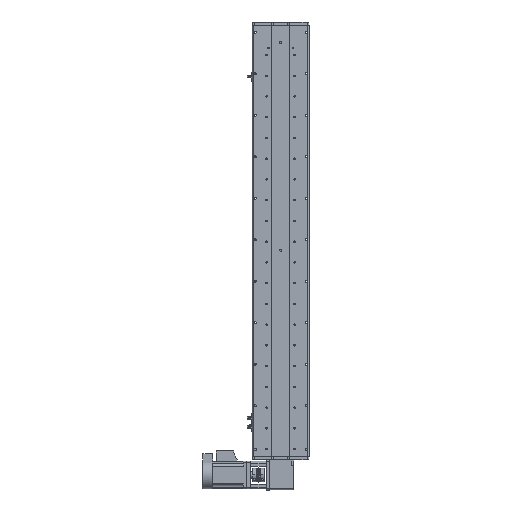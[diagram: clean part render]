
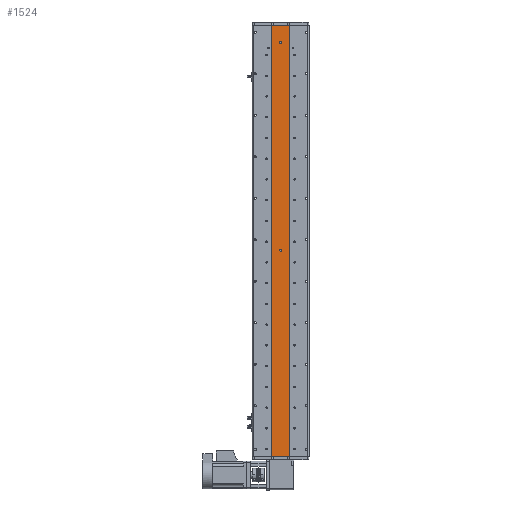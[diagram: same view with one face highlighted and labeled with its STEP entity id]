
A CAD part, front view. The second image highlights one B-rep face of the part: STEP entity #1524.
In plain terms, the highlighted planar face has unit normal (0, -1, 0).
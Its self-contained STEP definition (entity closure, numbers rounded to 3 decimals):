
#355 = DIRECTION ( 'NONE',  ( 0., 0., -1. ) ) ;
#443 = DIRECTION ( 'NONE',  ( 1., 0., 0. ) ) ;
#529 = FACE_BOUND ( 'NONE', #1612, .T. ) ;
#1479 = PLANE ( 'NONE',  #2645 ) ;
#1524 = ADVANCED_FACE ( 'NONE', ( #32357, #529, #41356 ), #1479, .F. ) ;
#1612 = EDGE_LOOP ( 'NONE', ( #46819, #31453 ) ) ;
#1796 = VERTEX_POINT ( 'NONE', #3450 ) ;
#1838 = CARTESIAN_POINT ( 'NONE',  ( -25., 1., 623.5 ) ) ;
#2645 = AXIS2_PLACEMENT_3D ( 'NONE', #5149, #9208, #36023 ) ;
#2861 = LINE ( 'NONE', #27304, #13046 ) ;
#2948 = CARTESIAN_POINT ( 'NONE',  ( 0., 1., 570.5 ) ) ;
#3123 = EDGE_CURVE ( 'NONE', #22605, #4921, #34158, .T. ) ;
#3450 = CARTESIAN_POINT ( 'NONE',  ( 25., 1., 623.5 ) ) ;
#3658 = AXIS2_PLACEMENT_3D ( 'NONE', #19289, #46166, #23184 ) ;
#3925 = CARTESIAN_POINT ( 'NONE',  ( 0., 1., -29.5 ) ) ;
#4743 = EDGE_LOOP ( 'NONE', ( #5762, #38711 ) ) ;
#4921 = VERTEX_POINT ( 'NONE', #34038 ) ;
#5149 = CARTESIAN_POINT ( 'NONE',  ( 25., 1., 623.5 ) ) ;
#5343 = VECTOR ( 'NONE', #43924, 1000. ) ;
#5762 = ORIENTED_EDGE ( 'NONE', *, *, #22961, .F. ) ;
#6274 = ORIENTED_EDGE ( 'NONE', *, *, #17627, .F. ) ;
#8441 = AXIS2_PLACEMENT_3D ( 'NONE', #19854, #46743, #23765 ) ;
#9208 = DIRECTION ( 'NONE',  ( 0., 1., 0. ) ) ;
#10306 = VECTOR ( 'NONE', #42070, 1000. ) ;
#10649 = CIRCLE ( 'NONE', #8441, 3. ) ;
#13046 = VECTOR ( 'NONE', #443, 1000. ) ;
#13065 = VERTEX_POINT ( 'NONE', #32907 ) ;
#15183 = CARTESIAN_POINT ( 'NONE',  ( 25., 1., -623.5 ) ) ;
#16748 = LINE ( 'NONE', #26690, #36012 ) ;
#17627 = EDGE_CURVE ( 'NONE', #1796, #23942, #16748, .T. ) ;
#17932 = EDGE_CURVE ( 'NONE', #13065, #24819, #46158, .T. ) ;
#18384 = EDGE_CURVE ( 'NONE', #4921, #22605, #10649, .T. ) ;
#19289 = CARTESIAN_POINT ( 'NONE',  ( 0., 1., 573.5 ) ) ;
#19365 = ORIENTED_EDGE ( 'NONE', *, *, #17932, .T. ) ;
#19854 = CARTESIAN_POINT ( 'NONE',  ( 0., 1., 573.5 ) ) ;
#20148 = CARTESIAN_POINT ( 'NONE',  ( 0., 1., -26.5 ) ) ;
#20154 = CARTESIAN_POINT ( 'NONE',  ( 0., 1., -23.5 ) ) ;
#21729 = EDGE_LOOP ( 'NONE', ( #34394, #6274, #30455, #19365 ) ) ;
#22605 = VERTEX_POINT ( 'NONE', #2948 ) ;
#22961 = EDGE_CURVE ( 'NONE', #33019, #36030, #45036, .T. ) ;
#23184 = DIRECTION ( 'NONE',  ( 0., 0., -1. ) ) ;
#23325 = DIRECTION ( 'NONE',  ( 0., -1., 0. ) ) ;
#23765 = DIRECTION ( 'NONE',  ( 0., 0., -1. ) ) ;
#23942 = VERTEX_POINT ( 'NONE', #46279 ) ;
#24069 = DIRECTION ( 'NONE',  ( 0., 0., -1. ) ) ;
#24819 = VERTEX_POINT ( 'NONE', #48240 ) ;
#26690 = CARTESIAN_POINT ( 'NONE',  ( 25., 1., 623.5 ) ) ;
#27304 = CARTESIAN_POINT ( 'NONE',  ( 25., 1., 623.5 ) ) ;
#28587 = AXIS2_PLACEMENT_3D ( 'NONE', #20148, #47053, #24069 ) ;
#30402 = DIRECTION ( 'NONE',  ( 0., 0., -1. ) ) ;
#30455 = ORIENTED_EDGE ( 'NONE', *, *, #47976, .F. ) ;
#31453 = ORIENTED_EDGE ( 'NONE', *, *, #18384, .F. ) ;
#32357 = FACE_BOUND ( 'NONE', #4743, .T. ) ;
#32907 = CARTESIAN_POINT ( 'NONE',  ( -25., 1., 623.5 ) ) ;
#33019 = VERTEX_POINT ( 'NONE', #3925 ) ;
#33511 = EDGE_CURVE ( 'NONE', #36030, #33019, #38664, .T. ) ;
#34038 = CARTESIAN_POINT ( 'NONE',  ( 0., 1., 576.5 ) ) ;
#34158 = CIRCLE ( 'NONE', #3658, 3. ) ;
#34394 = ORIENTED_EDGE ( 'NONE', *, *, #40167, .T. ) ;
#36012 = VECTOR ( 'NONE', #30402, 1000. ) ;
#36023 = DIRECTION ( 'NONE',  ( 0., 0., 1. ) ) ;
#36030 = VERTEX_POINT ( 'NONE', #20154 ) ;
#38664 = CIRCLE ( 'NONE', #47031, 3. ) ;
#38711 = ORIENTED_EDGE ( 'NONE', *, *, #33511, .F. ) ;
#39743 = LINE ( 'NONE', #15183, #10306 ) ;
#40167 = EDGE_CURVE ( 'NONE', #24819, #23942, #39743, .T. ) ;
#41356 = FACE_OUTER_BOUND ( 'NONE', #21729, .T. ) ;
#42070 = DIRECTION ( 'NONE',  ( 1., 0., 0. ) ) ;
#43924 = DIRECTION ( 'NONE',  ( 0., 0., -1. ) ) ;
#45036 = CIRCLE ( 'NONE', #28587, 3. ) ;
#46158 = LINE ( 'NONE', #1838, #5343 ) ;
#46166 = DIRECTION ( 'NONE',  ( 0., -1., 0. ) ) ;
#46279 = CARTESIAN_POINT ( 'NONE',  ( 25., 1., -623.5 ) ) ;
#46316 = CARTESIAN_POINT ( 'NONE',  ( 0., 1., -26.5 ) ) ;
#46743 = DIRECTION ( 'NONE',  ( 0., -1., 0. ) ) ;
#46819 = ORIENTED_EDGE ( 'NONE', *, *, #3123, .F. ) ;
#47031 = AXIS2_PLACEMENT_3D ( 'NONE', #46316, #23325, #355 ) ;
#47053 = DIRECTION ( 'NONE',  ( 0., -1., 0. ) ) ;
#47976 = EDGE_CURVE ( 'NONE', #13065, #1796, #2861, .T. ) ;
#48240 = CARTESIAN_POINT ( 'NONE',  ( -25., 1., -623.5 ) ) ;
